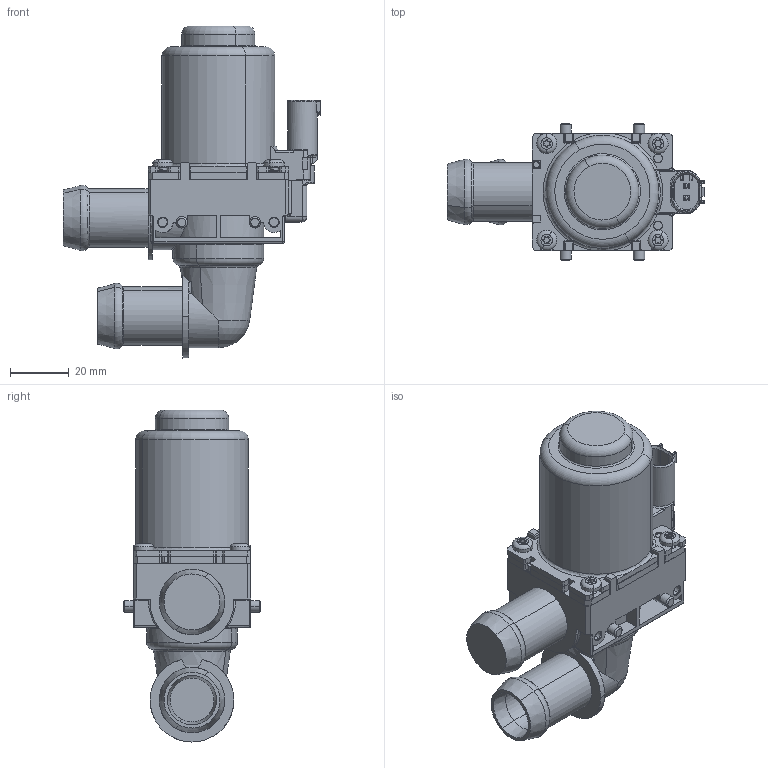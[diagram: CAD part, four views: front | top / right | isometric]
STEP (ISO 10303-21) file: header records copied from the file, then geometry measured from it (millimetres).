
FILE_DESCRIPTION(('CATIA V5 STEP Exchange'),'2;1');
FILE_NAME('C:\Documents and Settings\drk2bue\Desktop\0_140_A00_162_MV218.stp','2012-05-02T08:03:21+00:00',('none'),('none'),'CATIA Version 5 Release 19 SP 9 (IN-10)','CATIA V5 STEP AP214','none');
FILE_SCHEMA(('AUTOMOTIVE_DESIGN { 1 0 10303 214 1 1 1 1 }'));
Length unit declared in the file: millimetre
Products named in the file (1): 0 140 A00 162
Bounding box: 88 x 47 x 113.3 mm (x, y, z)
Volume: 134077.9 mm3; surface area: 36150.5 mm2
Topology: 8 solids, 8 shells, 915 faces, 2425 edges, 1533 vertices
Faces by surface type: cylinder 341, plane 324, torus 97, bspline 78, cone 53, sphere 22
Entity records: 36218 total; most frequent: CARTESIAN_POINT 15784, ORIENTED_EDGE 4794, DIRECTION 3144, EDGE_CURVE 2397, VERTEX_POINT 1533, AXIS2_PLACEMENT_3D 1439, VECTOR 1092, LINE 1092
